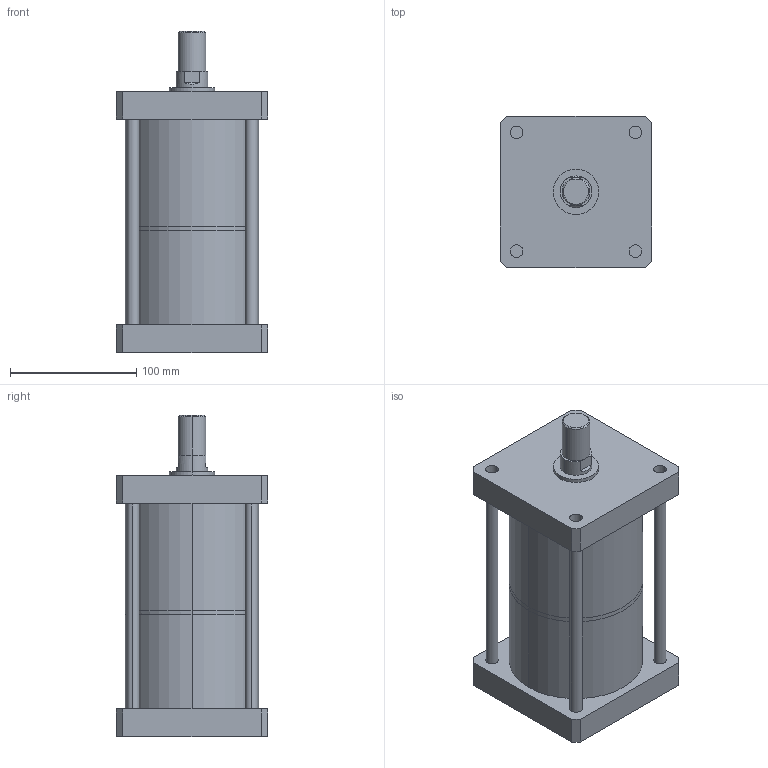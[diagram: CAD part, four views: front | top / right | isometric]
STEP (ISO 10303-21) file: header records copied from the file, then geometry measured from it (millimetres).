
FILE_DESCRIPTION (( 'STEP AP203' ), '1' );
FILE_NAME ('MHK-100-50-E-2.STEP', '2016-03-31T03:28:23', ( 'WIN' ), ( '' ), 'SwSTEP 2.0', 'SolidWorks 2014', '' );
FILE_SCHEMA (( 'CONFIG_CONTROL_DESIGN' ));
Length unit declared in the file: millimetre
Products named in the file (1): MHK-100-50-E-2
Bounding box: 120 x 120 x 254.5 mm (x, y, z)
Volume: 2121072.3 mm3; surface area: 186557.6 mm2
Topology: 3 solids, 3 shells, 134 faces, 310 edges, 202 vertices
Faces by surface type: plane 75, cylinder 49, cone 10
Entity records: 3885 total; most frequent: DIRECTION 688, CARTESIAN_POINT 649, ORIENTED_EDGE 612, EDGE_CURVE 306, AXIS2_PLACEMENT_3D 249, VERTEX_POINT 202, VECTOR 190, LINE 190
